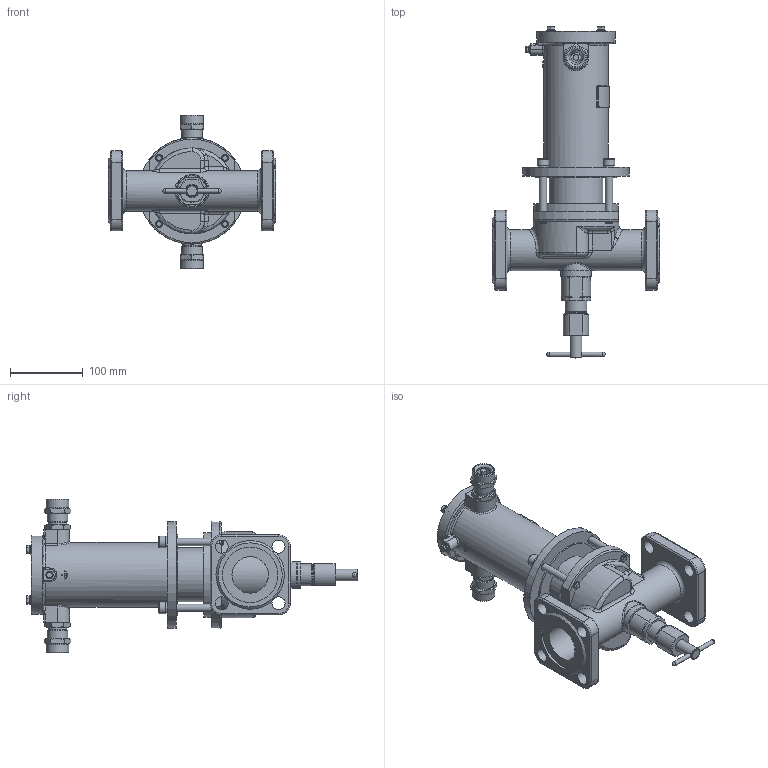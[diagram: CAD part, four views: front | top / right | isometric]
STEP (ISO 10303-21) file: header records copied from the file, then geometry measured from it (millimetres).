
FILE_DESCRIPTION(('STEP AP203'), '1');
FILE_NAME('ÑÅÍÑ DN50PN25-Â.stp', '2018-09-19T08:42:27', ('Îðëîâ Å.Â.'), ('ÎÎÎ ÍÏÏ Ñåíñîð'), 'ASCON STEP Converter 1.3', 'Kompas 3D', '');
FILE_SCHEMA(('CONFIG_CONTROL_DESIGN','SUPPORT_RESOURCE_SCHEMA'));
Length unit declared in the file: millimetre
Products named in the file (1): 38
Bounding box: 230 x 455.7 x 211 mm (x, y, z)
Volume: 1568308.5 mm3; surface area: 436879.5 mm2
Topology: 2 solids, 19 shells, 1984 faces, 5259 edges, 3395 vertices
Faces by surface type: cylinder 1012, plane 728, cone 127, torus 50, bspline 47, extrusion 16, sphere 4
Full cylindrical faces by diameter (mm): 3.5 x2, 4.134 x1, 4.917 x4, 5 x1, 6 x10, 6.5 x4, 8 x8, 8.2 x1, 10 x9, 11 x5, 12 x4, 13 x2, 16 x6, 17 x2, 18 x9, 20 x4, 20.9 x1, 22 x2, 22.376 x2, 23 x1, 23.5 x2, 24 x2, 24.5 x2, 26 x4, 26.376 x2, 27.8 x1, 28 x3, 28.5 x2, 30 x2, 31 x2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
Entity records: 77158 total; most frequent: CARTESIAN_POINT 26802, DIRECTION 10931, ORIENTED_EDGE 10460, EDGE_CURVE 5230, AXIS2_PLACEMENT_3D 4201, VERTEX_POINT 3395, VECTOR 2529, LINE 2513
